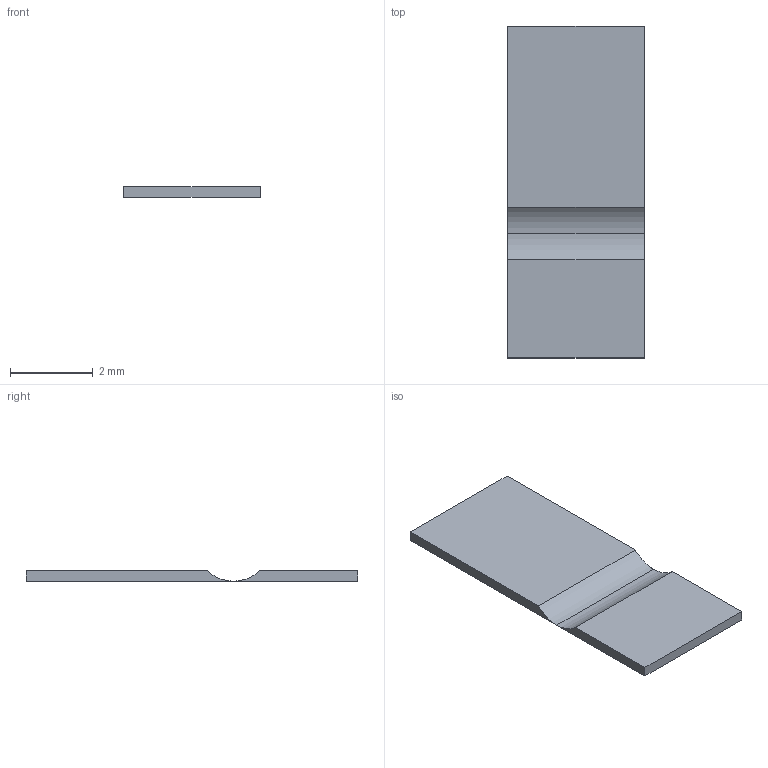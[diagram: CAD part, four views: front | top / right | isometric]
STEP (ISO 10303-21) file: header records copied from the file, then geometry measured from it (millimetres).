
FILE_DESCRIPTION(('Open CASCADE Model'),'2;1');
FILE_NAME('R36_STOCK_J8_SADDLE_SILICONE_0p25','2026-09-15T14:21:06',( 'Author'),('Open CASCADE'),'Open CASCADE STEP processor 7.9', 'build123d','Unknown');
FILE_SCHEMA(('AUTOMOTIVE_DESIGN { 1 0 10303 214 1 1 1 1 }'));
Length unit declared in the file: millimetre
Products named in the file (1): R36_STOCK_J8_SADDLE_SILICONE_0p25
Bounding box: 3.3 x 8 x 0.25 mm (x, y, z)
Volume: 5.9 mm3; surface area: 58.4 mm2
Topology: 2 solids, 2 shells, 12 faces, 24 edges, 16 vertices
Faces by surface type: plane 10, cylinder 2
Entity records: 624 total; most frequent: CARTESIAN_POINT 109, DIRECTION 94, LINE 56, VECTOR 56, ORIENTED_EDGE 48, PCURVE 48, DEFINITIONAL_REPRESENTATION 48, EDGE_CURVE 24
